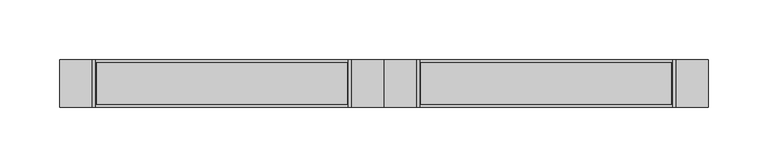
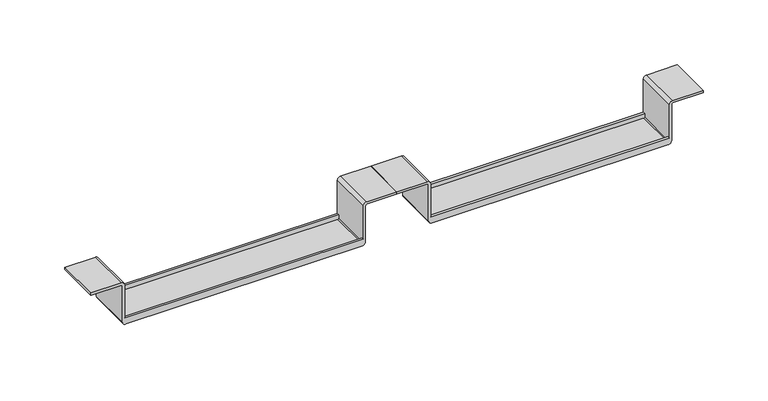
"""IFC4 building model written with IfcOpenShell, lengths in millimetres: proxy geometry, Cable_Tray_Support_SV_Basorsupport : Basorsupport SV 400."""

import ifcopenshell
import ifcopenshell.guid

model = None  # the IFC model being written
_history = None  # IfcOwnerHistory: only IFC2X3 demands one
_inside = {}  # id of a spatial element -> (the spatial element, [elements in it])
_under = {}  # id of a project, library or spatial element -> (it, [spatial elements below it])
_declared = {}  # id of a project -> (the project, [libraries it declares])
_typed = {}  # id of a type object -> (the type object, [elements of that type])
_made_of = {}  # id of a material, layer set ... -> (it, [elements and type objects made of it])


def new_model(schema):
    """Start an empty IFC model of exactly this schema.

    Asked for "IFC4X3", IfcOpenShell would pick the latest addendum, in which some entities
    have other attributes; the version numbers below select the first issue.
    IFC2X3 requires an IfcOwnerHistory on every rooted entity: one is made here for all.
    """
    global model, _history
    if schema == "IFC4X3":
        model = ifcopenshell.file(schema_version=(4, 3, 0, 0))
    else:
        model = ifcopenshell.file(schema=schema)
    _inside.clear()
    _under.clear()
    _declared.clear()
    _typed.clear()
    _made_of.clear()
    _history = None
    if model.schema == "IFC2X3":
        org = make("IfcOrganization", Name="unknown")
        user = make(
            "IfcPersonAndOrganization",
            ThePerson=make("IfcPerson", FamilyName="unknown"),
            TheOrganization=org,
        )
        app = make(
            "IfcApplication",
            ApplicationDeveloper=org,
            Version="unknown",
            ApplicationFullName="unknown",
            ApplicationIdentifier="unknown",
        )
        _history = make(
            "IfcOwnerHistory",
            OwningUser=user,
            OwningApplication=app,
            ChangeAction="ADDED",
            CreationDate=0,
        )
    return model


def make(cls, **values):
    """One entity of the class cls with the attributes given. An attribute that is None is left unset."""
    return model.create_entity(
        cls, **{name: value for name, value in values.items() if value is not None}
    )


def rooted(cls, **values):
    """An entity with a GlobalId (a new one), such as an element, a storey or a relation."""
    return make(cls, GlobalId=ifcopenshell.guid.new(), OwnerHistory=_history, **values)


def si_unit(unit_type, name, prefix=None):
    """IfcSIUnit, for example si_unit("LENGTHUNIT", "METRE", prefix="MILLI")."""
    return make("IfcSIUnit", UnitType=unit_type, Prefix=prefix, Name=name)


def assignment(units):
    """IfcUnitAssignment: the units of a project."""
    return None if units is None else make("IfcUnitAssignment", Units=units)


def point(xyz):
    """IfcCartesianPoint."""
    return None if xyz is None else make("IfcCartesianPoint", Coordinates=xyz)


def direction(xyz):
    """IfcDirection."""
    return None if xyz is None else make("IfcDirection", DirectionRatios=xyz)


def frame(location, z_axis=None, x_axis=None):
    """IfcAxis2Placement3D, a coordinate frame: its origin and axes. An axis left out is left unset."""
    return make(
        "IfcAxis2Placement3D",
        Location=point(location),
        Axis=direction(z_axis),
        RefDirection=direction(x_axis),
    )


def origin():
    """The frame at (0, 0, 0) with its axes left unset."""
    return frame((0.0, 0.0, 0.0))


def place(relative_to, where):
    """IfcLocalPlacement: puts the frame where relative to a parent placement (None: the world)."""
    return make(
        "IfcLocalPlacement", PlacementRelTo=relative_to, RelativePlacement=where
    )


def context(
    kind, dimensions, precision=None, world=None, true_north=None, identifier=None
):
    """IfcGeometricRepresentationContext, for example the 3D "Model" context."""
    return make(
        "IfcGeometricRepresentationContext",
        ContextIdentifier=identifier,
        ContextType=kind,
        CoordinateSpaceDimension=dimensions,
        Precision=precision,
        WorldCoordinateSystem=world,
        TrueNorth=true_north,
    )


def project(units=None, contexts=None):
    """IfcProject with its units and contexts."""
    return rooted(
        "IfcProject",
        Name="project",
        RepresentationContexts=contexts,
        UnitsInContext=assignment(units),
    )


def spatial(cls, under=None, at=None, **own):
    """A site, building, storey or space (cls), placed at a placement, below another one or the project."""
    s = rooted(cls, ObjectPlacement=at, **own)
    if under is not None:
        _under.setdefault(under.id(), (under, []))[1].append(s)
    return s


def polyline(points):
    """IfcPolyline through the points."""
    return make("IfcPolyline", Points=[point(p) for p in points])


def circle_curve(where, radius):
    """IfcCircle in the frame where."""
    return make("IfcCircle", Position=where, Radius=radius)


def shape(context_of_items, identifier, shape_type, items):
    """IfcShapeRepresentation: the items that make up one representation, for example the "Body"."""
    return make(
        "IfcShapeRepresentation",
        ContextOfItems=context_of_items,
        RepresentationIdentifier=identifier,
        RepresentationType=shape_type,
        Items=items,
    )


def source(mapping_origin, context_of_items, identifier, shape_type, items):
    """IfcRepresentationMap: a shape defined once, which mapped items show again and again."""
    return make(
        "IfcRepresentationMap",
        MappingOrigin=mapping_origin,
        MappedRepresentation=shape(context_of_items, identifier, shape_type, items),
    )


def transform(
    local_origin,
    x_axis=None,
    y_axis=None,
    z_axis=None,
    scale=None,
    scale2=None,
    scale3=None,
    uniform=True,
):
    """IfcCartesianTransformationOperator3D, or its non-uniform kind. x_axis, y_axis, z_axis: its Axis1, 2, 3."""
    if uniform:
        return make(
            "IfcCartesianTransformationOperator3D",
            Axis1=direction(x_axis),
            Axis2=direction(y_axis),
            LocalOrigin=point(local_origin),
            Scale=scale,
            Axis3=direction(z_axis),
        )
    return make(
        "IfcCartesianTransformationOperator3DnonUniform",
        Axis1=direction(x_axis),
        Axis2=direction(y_axis),
        LocalOrigin=point(local_origin),
        Scale=scale,
        Axis3=direction(z_axis),
        Scale2=scale2,
        Scale3=scale3,
    )


def mapped(mapping_source, mapping_target):
    """IfcMappedItem: shows the shape of a source again, moved by a transform."""
    return make(
        "IfcMappedItem", MappingSource=mapping_source, MappingTarget=mapping_target
    )


def made_of(thing, what):
    """Note that an element or type object is made of a material, layer set ...; save() writes the relation."""
    if what is not None:
        _made_of.setdefault(what.id(), (what, []))[1].append(thing)
    return thing


def element(
    cls,
    number,
    at=None,
    inside=None,
    cuts=None,
    type_object=None,
    material=None,
    context=None,
    identifier="Body",
    shape_type=None,
    held_by="IfcProductDefinitionShape",
    body=None,
    shapes=None,
    **own,
):
    """One element of the class cls, such as IfcWall. Its Tag is "e" and its number.

    at: its placement. inside: the storey or other place that contains it. cuts: it is an
    opening in that element (IfcRelVoidsElement). A single representation is given by context,
    identifier, shape_type and body (its items); several are given by shapes. held_by: the class
    of the entity that holds the representations. save() writes the other relations.
    """
    e = rooted(cls, Tag="e%d" % number, ObjectPlacement=at, **own)
    if body is not None:
        shapes = [shape(context, identifier, shape_type, body)]
    if shapes is not None:
        e.Representation = make(held_by, Representations=shapes)
    if inside is not None:
        _inside.setdefault(inside.id(), (inside, []))[1].append(e)
    if cuts is not None:
        rooted(
            "IfcRelVoidsElement", RelatingBuildingElement=cuts, RelatedOpeningElement=e
        )
    if type_object is not None:
        _typed.setdefault(type_object.id(), (type_object, []))[1].append(e)
    return made_of(e, material)


def aggregate(whole, parts):
    """IfcRelAggregates: a whole, such as a stair, and the parts it consists of."""
    return rooted("IfcRelAggregates", RelatingObject=whole, RelatedObjects=parts)


def save(model, path):
    """Write the relations noted so far, then the file.

    IfcRelAggregates (storeys below a building ...), IfcRelContainedInSpatialStructure (elements
    in a storey), IfcRelDefinesByType, IfcRelAssociatesMaterial and IfcRelDeclares: one each for
    every whole, place, type object, material and project.
    """
    for whole, parts in _under.values():
        aggregate(whole, parts)
    for where, things in _inside.values():
        rooted(
            "IfcRelContainedInSpatialStructure",
            RelatedElements=things,
            RelatingStructure=where,
        )
    for kind, things in _typed.values():
        rooted("IfcRelDefinesByType", RelatedObjects=things, RelatingType=kind)
    for what, things in _made_of.values():
        rooted("IfcRelAssociatesMaterial", RelatedObjects=things, RelatingMaterial=what)
    for by, libraries in _declared.values():
        rooted("IfcRelDeclares", RelatingContext=by, RelatedDefinitions=libraries)
    model.write(path)


def plane_surface(at):
    """IfcPlane: the flat surface through the origin of the frame at, square to its z axis."""
    return make("IfcPlane", Position=at)


def cylinder_surface(at, radius):
    """IfcCylindricalSurface: all points at the distance radius from the z axis of the frame at."""
    return make("IfcCylindricalSurface", Position=at, Radius=radius)


def revolved_surface(curve, axis_point, axis_direction):
    """IfcSurfaceOfRevolution: the curve turned about the line through axis_point along axis_direction."""
    return make(
        "IfcSurfaceOfRevolution",
        SweptCurve=make("IfcArbitraryOpenProfileDef", ProfileType="CURVE", Curve=curve),
        AxisPosition=make("IfcAxis1Placement", Location=point(axis_point), Axis=direction(axis_direction)),
    )


def advanced_brep(points, edges, surfaces, faces):
    """IfcAdvancedBrep: a solid bounded by faces that lie on surfaces and meet in shared edges.

    An edge is (start, end): straight between two places in points (the first is 0);
    or (start, end, curve); or (start, end, curve, False) where it runs against its curve.
    A face is (place in surfaces, loops), or (place, loops, False) where it looks against
    its surface's normal. A loop lists edges by number (the first is 1), with a minus sign
    where the edge is run from its end to its start. The first loop is the outer one.
    """
    corners = [point(p) for p in points]
    vertices = [make("IfcVertexPoint", VertexGeometry=c) for c in corners]
    made = []
    for start, end, *more in edges:
        made.append(
            make(
                "IfcEdgeCurve",
                EdgeStart=vertices[start],
                EdgeEnd=vertices[end],
                EdgeGeometry=more[0] if more else make("IfcPolyline", Points=[corners[start], corners[end]]),
                SameSense=more[1] if len(more) > 1 else True,
            )
        )
    hull = []
    for where, loops, *sense in faces:
        bounds = []
        for j, loop in enumerate(loops):
            ring = [make("IfcOrientedEdge", EdgeElement=made[abs(k) - 1], Orientation=k > 0) for k in loop]
            bounds.append(
                make(
                    "IfcFaceOuterBound" if j == 0 else "IfcFaceBound",
                    Bound=make("IfcEdgeLoop", EdgeList=ring),
                    Orientation=True,
                )
            )
        hull.append(make("IfcAdvancedFace", Bounds=bounds, FaceSurface=surfaces[where], SameSense=sense[0] if sense else True))
    return make("IfcAdvancedBrep", Outer=make("IfcClosedShell", CfsFaces=hull))


def generic_models_95577306(model_context):
    return source(origin(), model_context, "Body", "AdvancedBrep", [
        advanced_brep(
        [(242.0, -18.0, 6.0), (30.0, -18.0, 6.0), (30.0, -20.0, 6.0), (242.0, -20.0, 6.0), (242.0, 20.0, 6.0), (30.0, 20.0, 6.0), (30.0, 18.0, 6.0), (242.0, 18.0, 6.0), (242.0, -18.0, 3.0), (241.0, -18.0, 2.0), (31.0, -18.0, 2.0), (30.0, -18.0, 3.0), (30.0, -20.0, 37.0), (27.0, -20.0, 40.0), (0.0, -20.0, 40.0), (0.0, -20.0, 38.0), (27.0, -20.0, 38.0), (28.0, -20.0, 37.0), (28.0, -20.0, 3.0), (28.0327955, -20.0, 2.5576232), (31.0, -20.0, 0.0), (241.0, -20.0, 0.0), (244.0, -20.0, 3.0), (244.0, -20.0, 37.0), (245.0, -20.0, 38.0), (272.0, -20.0, 38.0), (272.0, -20.0, 40.0), (245.0, -20.0, 40.0), (242.0, -20.0, 37.0), (242.0, 20.0, 37.0), (245.0, 20.0, 40.0), (272.0, 20.0, 40.0), (272.0, 20.0, 38.0), (245.0, 20.0, 38.0), (244.0, 20.0, 37.0), (244.0, 20.0, 3.0), (241.0, 20.0, 0.0), (31.0, 20.0, 0.0), (28.0327955, 20.0, 2.5576232), (28.0, 20.0, 3.0), (28.0, 20.0, 37.0), (27.0, 20.0, 38.0), (0.0, 20.0, 38.0), (0.0, 20.0, 40.0), (27.0, 20.0, 40.0), (30.0, 20.0, 37.0), (30.0, 18.0, 3.0), (31.0, 18.0, 2.0), (241.0, 18.0, 2.0), (242.0, 18.0, 3.0)],
        [
            (0, 1),
            (1, 2),
            (2, 3),
            (3, 0),
            (4, 5),
            (5, 6),
            (6, 7),
            (7, 4),
            (0, 8),
            (8, 9, circle_curve(frame((241.0, -18.0, 3.0), z_axis=(0.0, 1.0, 0.0), x_axis=(1.0, 0.0, 0.0)), 1.0)),
            (9, 10),
            (10, 11, circle_curve(frame((31.0, -18.0, 3.0), z_axis=(0.0, 1.0, 0.0), x_axis=(1.0, 0.0, 0.0)), 1.0)),
            (11, 1),
            (2, 12),
            (12, 13, circle_curve(frame((27.0, -20.0, 37.0), z_axis=(0.0, -1.0, 0.0), x_axis=(1.0, 0.0, 0.0)), 3.0)),
            (13, 14),
            (14, 15),
            (15, 16),
            (16, 17, circle_curve(frame((27.0, -20.0, 37.0), z_axis=(0.0, 1.0, 0.0), x_axis=(1.0, 0.0, 0.0)), 1.0)),
            (17, 18),
            (18, 19, circle_curve(frame((31.0, -20.0, 3.0), z_axis=(0.0, -1.0, 0.0), x_axis=(1.0, 0.0, 0.0)), 3.0)),
            (19, 20, circle_curve(frame((31.0, -20.0, 3.0), z_axis=(0.0, -1.0, 0.0), x_axis=(1.0, 0.0, 0.0)), 3.0)),
            (20, 21),
            (21, 22, circle_curve(frame((241.0, -20.0, 3.0), z_axis=(0.0, -1.0, 0.0), x_axis=(1.0, 0.0, 0.0)), 3.0)),
            (22, 23),
            (23, 24, circle_curve(frame((245.0, -20.0, 37.0), z_axis=(0.0, 1.0, 0.0), x_axis=(1.0, 0.0, 0.0)), 1.0)),
            (24, 25),
            (25, 26),
            (26, 27),
            (27, 28, circle_curve(frame((245.0, -20.0, 37.0), z_axis=(0.0, -1.0, 0.0), x_axis=(1.0, 0.0, 0.0)), 3.0)),
            (28, 3),
            (4, 29),
            (29, 30, circle_curve(frame((245.0, 20.0, 37.0), z_axis=(0.0, 1.0, 0.0), x_axis=(1.0, 0.0, 0.0)), 3.0)),
            (30, 31),
            (31, 32),
            (32, 33),
            (33, 34, circle_curve(frame((245.0, 20.0, 37.0), z_axis=(0.0, -1.0, 0.0), x_axis=(1.0, 0.0, 0.0)), 1.0)),
            (34, 35),
            (35, 36, circle_curve(frame((241.0, 20.0, 3.0), z_axis=(0.0, 1.0, 0.0), x_axis=(1.0, 0.0, 0.0)), 3.0)),
            (36, 37),
            (37, 38, circle_curve(frame((31.0, 20.0, 3.0), z_axis=(0.0, 1.0, 0.0), x_axis=(1.0, 0.0, 0.0)), 3.0)),
            (38, 39, circle_curve(frame((31.0, 20.0, 3.0), z_axis=(0.0, 1.0, 0.0), x_axis=(1.0, 0.0, 0.0)), 3.0)),
            (39, 40),
            (40, 41, circle_curve(frame((27.0, 20.0, 37.0), z_axis=(0.0, -1.0, 0.0), x_axis=(1.0, 0.0, 0.0)), 1.0)),
            (41, 42),
            (42, 43),
            (43, 44),
            (44, 45, circle_curve(frame((27.0, 20.0, 37.0), z_axis=(0.0, 1.0, 0.0), x_axis=(1.0, 0.0, 0.0)), 3.0)),
            (45, 5),
            (6, 46),
            (46, 47, circle_curve(frame((31.0, 18.0, 3.0), z_axis=(0.0, -1.0, 0.0), x_axis=(1.0, 0.0, 0.0)), 1.0)),
            (47, 48),
            (48, 49, circle_curve(frame((241.0, 18.0, 3.0), z_axis=(0.0, -1.0, 0.0), x_axis=(1.0, 0.0, 0.0)), 1.0)),
            (49, 7),
            (9, 48),
            (47, 10),
            (28, 29),
            (49, 8),
            (26, 31),
            (30, 27),
            (25, 32),
            (24, 33),
            (22, 35),
            (34, 23),
            (20, 37),
            (36, 21),
            (17, 40),
            (39, 18),
            (15, 42),
            (41, 16),
            (14, 43),
            (13, 44),
            (45, 12),
            (11, 46),
        ],
        [
            plane_surface(frame((242.0, -20.0, 6.0), z_axis=(0.0, 0.0, 1.0), x_axis=(0.0, 1.0, 0.0))),
            plane_surface(frame((242.0, -18.0, 6.0), z_axis=(0.0, 1.0, 0.0), x_axis=(0.0, 0.0, -1.0))),
            plane_surface(frame((30.0, -20.0, 6.0), z_axis=(0.0, -1.0, 0.0), x_axis=(0.0, 0.0, -1.0))),
            plane_surface(frame((242.0, 20.0, 6.0), z_axis=(0.0, 1.0, 0.0), x_axis=(0.0, 0.0, -1.0))),
            plane_surface(frame((30.0, 18.0, 6.0), z_axis=(0.0, -1.0, 0.0), x_axis=(0.0, 0.0, -1.0))),
            plane_surface(frame((241.0, -20.0, 2.0), z_axis=(0.0, 0.0, 1.0), x_axis=(0.0, 1.0, 0.0))),
            plane_surface(frame((242.0, -20.0, 37.0), z_axis=(-1.0, 0.0, -1.8865575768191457e-12), x_axis=(0.0, 1.0, 0.0))),
            plane_surface(frame((272.0, -20.0, 40.0), z_axis=(0.0, 0.0, 1.0), x_axis=(0.0, 1.0, 0.0))),
            plane_surface(frame((272.0, -20.0, 38.0), z_axis=(1.0, 0.0, 0.0), x_axis=(0.0, 1.0, 0.0))),
            plane_surface(frame((245.0, -20.0, 38.0), z_axis=(0.0, 0.0, -1.0), x_axis=(0.0, 1.0, 0.0))),
            plane_surface(frame((244.0, -20.0, 3.0), z_axis=(1.0, 0.0, 0.0), x_axis=(0.0, 1.0, 0.0))),
            plane_surface(frame((31.0, -20.0, 0.0), z_axis=(0.0, 0.0, -1.0), x_axis=(0.0, 1.0, 0.0))),
            plane_surface(frame((28.0, -20.0, 37.0), z_axis=(-1.0, 0.0, 0.0), x_axis=(0.0, 1.0, 0.0))),
            plane_surface(frame((0.0, -20.0, 38.0), z_axis=(0.0, 0.0, -1.0), x_axis=(0.0, 1.0, 0.0))),
            plane_surface(frame((0.0, -20.0, 40.0), z_axis=(-1.0, 0.0, 0.0), x_axis=(0.0, 1.0, 0.0))),
            plane_surface(frame((27.0, -20.0, 40.0), z_axis=(0.0, 0.0, 1.0), x_axis=(0.0, 1.0, 0.0))),
            plane_surface(frame((30.0, -20.0, 3.0), z_axis=(1.0, 0.0, 0.0), x_axis=(0.0, 1.0, 0.0))),
            cylinder_surface(frame((27.0, 20.0, 37.0), z_axis=(0.0, -1.0, 0.0), x_axis=(1.0, 0.0, 0.0)), 3.0),
            revolved_surface(polyline([(28.0, 20.0, 37.0), (28.0, -20.0, 37.0)]), (27.0, 20.0, 37.0), (0.0, 1.0, 0.0)),
            cylinder_surface(frame((31.0, 20.0, 3.0), z_axis=(0.0, -1.0, 0.0), x_axis=(1.0, 0.0, 0.0)), 3.0),
            cylinder_surface(frame((241.0, 20.0, 3.0), z_axis=(0.0, -1.0, 0.0), x_axis=(1.0, 0.0, 0.0)), 3.0),
            revolved_surface(polyline([(246.0, 20.0, 37.0), (246.0, -20.0, 37.0)]), (245.0, 20.0, 37.0), (0.0, 1.0, 0.0)),
            cylinder_surface(frame((245.0, 20.0, 37.0), z_axis=(0.0, -1.0, 0.0), x_axis=(1.0, 0.0, 0.0)), 3.0),
            revolved_surface(polyline([(242.0, 18.0, 3.0), (242.0, -18.0, 3.0)]), (241.0, 20.0, 3.0), (0.0, 1.0, 0.0)),
            revolved_surface(polyline([(32.0, 18.0, 3.0), (32.0, -18.0, 3.0)]), (31.0, 20.0, 3.0), (0.0, 1.0, 0.0)),
        ],
        [
            (0, [[1, 2, 3, 4]]),
            (0, [[5, 6, 7, 8]]),
            (1, [[-1, 9, 10, 11, 12, 13]]),
            (2, [[-3, 14, 15, 16, 17, 18, 19, 20, 21, 22, 23, 24, 25, 26, 27, 28, 29, 30, 31]]),
            (3, [[-5, 32, 33, 34, 35, 36, 37, 38, 39, 40, 41, 42, 43, 44, 45, 46, 47, 48, 49]]),
            (4, [[-7, 50, 51, 52, 53, 54]]),
            (5, [[55, -52, 56, -11]]),
            (6, [[57, -32, -8, -54, 58, -9, -4, -31]]),
            (7, [[-29, 59, -34, 60]]),
            (8, [[-28, 61, -35, -59]]),
            (9, [[-27, 62, -36, -61]]),
            (10, [[-25, 63, -38, 64]]),
            (11, [[-23, 65, -40, 66]]),
            (12, [[-20, 67, -43, 68]]),
            (13, [[-18, 69, -45, 70]]),
            (14, [[-17, 71, -46, -69]]),
            (15, [[-16, 72, -47, -71]]),
            (16, [[73, -14, -2, -13, 74, -50, -6, -49]]),
            (17, [[-15, -73, -48, -72]]),
            (18, [[-19, -70, -44, -67]]),
            (19, [[-22, -21, -68, -42, -41, -65]]),
            (20, [[-24, -66, -39, -63]]),
            (21, [[-26, -64, -37, -62]]),
            (22, [[-30, -60, -33, -57]]),
            (23, [[-55, -10, -58, -53]]),
            (24, [[-56, -51, -74, -12]]),
        ],
    ),
        advanced_brep(
        [(-30.0, -18.0, 6.0), (-242.0, -18.0, 6.0), (-242.0, -20.0, 6.0), (-30.0, -20.0, 6.0), (-30.0, 20.0, 6.0), (-242.0, 20.0, 6.0), (-242.0, 18.0, 6.0), (-30.0, 18.0, 6.0), (-30.0, -18.0, 3.0), (-31.0, -18.0, 2.0), (-241.0, -18.0, 2.0), (-242.0, -18.0, 3.0), (-242.0, -20.0, 37.0), (-245.0, -20.0, 40.0), (-272.0, -20.0, 40.0), (-272.0, -20.0, 38.0), (-245.0, -20.0, 38.0), (-244.0, -20.0, 37.0), (-244.0, -20.0, 3.0), (-243.9672045, -20.0, 2.5576232), (-241.0, -20.0, 0.0), (-31.0, -20.0, 0.0), (-28.0, -20.0, 3.0), (-28.0, -20.0, 37.0), (-27.0, -20.0, 38.0), (0.0, -20.0, 38.0), (0.0, -20.0, 40.0), (-27.0, -20.0, 40.0), (-30.0, -20.0, 37.0), (-30.0, 20.0, 37.0), (-27.0, 20.0, 40.0), (0.0, 20.0, 40.0), (0.0, 20.0, 38.0), (-27.0, 20.0, 38.0), (-28.0, 20.0, 37.0), (-28.0, 20.0, 3.0), (-31.0, 20.0, 0.0), (-241.0, 20.0, 0.0), (-243.9672045, 20.0, 2.5576232), (-244.0, 20.0, 3.0), (-244.0, 20.0, 37.0), (-245.0, 20.0, 38.0), (-272.0, 20.0, 38.0), (-272.0, 20.0, 40.0), (-245.0, 20.0, 40.0), (-242.0, 20.0, 37.0), (-242.0, 18.0, 3.0), (-241.0, 18.0, 2.0), (-31.0, 18.0, 2.0), (-30.0, 18.0, 3.0)],
        [
            (0, 1),
            (1, 2),
            (2, 3),
            (3, 0),
            (4, 5),
            (5, 6),
            (6, 7),
            (7, 4),
            (0, 8),
            (8, 9, circle_curve(frame((-31.0, -18.0, 3.0), z_axis=(0.0, 1.0, 0.0), x_axis=(1.0, 0.0, 0.0)), 1.0)),
            (9, 10),
            (10, 11, circle_curve(frame((-241.0, -18.0, 3.0), z_axis=(0.0, 1.0, 0.0), x_axis=(1.0, 0.0, 0.0)), 1.0)),
            (11, 1),
            (2, 12),
            (12, 13, circle_curve(frame((-245.0, -20.0, 37.0), z_axis=(0.0, -1.0, 0.0), x_axis=(1.0, 0.0, 0.0)), 3.0)),
            (13, 14),
            (14, 15),
            (15, 16),
            (16, 17, circle_curve(frame((-245.0, -20.0, 37.0), z_axis=(0.0, 1.0, 0.0), x_axis=(1.0, 0.0, 0.0)), 1.0)),
            (17, 18),
            (18, 19, circle_curve(frame((-241.0, -20.0, 3.0), z_axis=(0.0, -1.0, 0.0), x_axis=(1.0, 0.0, 0.0)), 3.0)),
            (19, 20, circle_curve(frame((-241.0, -20.0, 3.0), z_axis=(0.0, -1.0, 0.0), x_axis=(1.0, 0.0, 0.0)), 3.0)),
            (20, 21),
            (21, 22, circle_curve(frame((-31.0, -20.0, 3.0), z_axis=(0.0, -1.0, 0.0), x_axis=(1.0, 0.0, 0.0)), 3.0)),
            (22, 23),
            (23, 24, circle_curve(frame((-27.0, -20.0, 37.0), z_axis=(0.0, 1.0, 0.0), x_axis=(1.0, 0.0, 0.0)), 1.0)),
            (24, 25),
            (25, 26),
            (26, 27),
            (27, 28, circle_curve(frame((-27.0, -20.0, 37.0), z_axis=(0.0, -1.0, 0.0), x_axis=(1.0, 0.0, 0.0)), 3.0)),
            (28, 3),
            (4, 29),
            (29, 30, circle_curve(frame((-27.0, 20.0, 37.0), z_axis=(0.0, 1.0, 0.0), x_axis=(1.0, 0.0, 0.0)), 3.0)),
            (30, 31),
            (31, 32),
            (32, 33),
            (33, 34, circle_curve(frame((-27.0, 20.0, 37.0), z_axis=(0.0, -1.0, 0.0), x_axis=(1.0, 0.0, 0.0)), 1.0)),
            (34, 35),
            (35, 36, circle_curve(frame((-31.0, 20.0, 3.0), z_axis=(0.0, 1.0, 0.0), x_axis=(1.0, 0.0, 0.0)), 3.0)),
            (36, 37),
            (37, 38, circle_curve(frame((-241.0, 20.0, 3.0), z_axis=(0.0, 1.0, 0.0), x_axis=(1.0, 0.0, 0.0)), 3.0)),
            (38, 39, circle_curve(frame((-241.0, 20.0, 3.0), z_axis=(0.0, 1.0, 0.0), x_axis=(1.0, 0.0, 0.0)), 3.0)),
            (39, 40),
            (40, 41, circle_curve(frame((-245.0, 20.0, 37.0), z_axis=(0.0, -1.0, 0.0), x_axis=(1.0, 0.0, 0.0)), 1.0)),
            (41, 42),
            (42, 43),
            (43, 44),
            (44, 45, circle_curve(frame((-245.0, 20.0, 37.0), z_axis=(0.0, 1.0, 0.0), x_axis=(1.0, 0.0, 0.0)), 3.0)),
            (45, 5),
            (6, 46),
            (46, 47, circle_curve(frame((-241.0, 18.0, 3.0), z_axis=(0.0, -1.0, 0.0), x_axis=(1.0, 0.0, 0.0)), 1.0)),
            (47, 48),
            (48, 49, circle_curve(frame((-31.0, 18.0, 3.0), z_axis=(0.0, -1.0, 0.0), x_axis=(1.0, 0.0, 0.0)), 1.0)),
            (49, 7),
            (9, 48),
            (47, 10),
            (28, 29),
            (49, 8),
            (26, 31),
            (30, 27),
            (25, 32),
            (24, 33),
            (22, 35),
            (34, 23),
            (20, 37),
            (36, 21),
            (17, 40),
            (39, 18),
            (15, 42),
            (41, 16),
            (14, 43),
            (13, 44),
            (45, 12),
            (11, 46),
        ],
        [
            plane_surface(frame((-30.0, -20.0, 6.0), z_axis=(0.0, 0.0, 1.0), x_axis=(0.0, 1.0, 0.0))),
            plane_surface(frame((-30.0, -18.0, 6.0), z_axis=(0.0, 1.0, 0.0), x_axis=(0.0, 0.0, -1.0))),
            plane_surface(frame((-242.0, -20.0, 6.0), z_axis=(0.0, -1.0, 0.0), x_axis=(0.0, 0.0, -1.0))),
            plane_surface(frame((-30.0, 20.0, 6.0), z_axis=(0.0, 1.0, 0.0), x_axis=(0.0, 0.0, -1.0))),
            plane_surface(frame((-242.0, 18.0, 6.0), z_axis=(0.0, -1.0, 0.0), x_axis=(0.0, 0.0, -1.0))),
            plane_surface(frame((-31.0, -20.0, 2.0), z_axis=(0.0, 0.0, 1.0), x_axis=(0.0, 1.0, 0.0))),
            plane_surface(frame((-30.0, -20.0, 37.0), z_axis=(-1.0, 0.0, -1.8865575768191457e-12), x_axis=(0.0, 1.0, 0.0))),
            plane_surface(frame((0.0, -20.0, 40.0), z_axis=(0.0, 0.0, 1.0), x_axis=(0.0, 1.0, 0.0))),
            plane_surface(frame((0.0, -20.0, 38.0), z_axis=(1.0, 0.0, 0.0), x_axis=(0.0, 1.0, 0.0))),
            plane_surface(frame((-27.0, -20.0, 38.0), z_axis=(0.0, 0.0, -1.0), x_axis=(0.0, 1.0, 0.0))),
            plane_surface(frame((-28.0, -20.0, 3.0), z_axis=(1.0, 0.0, 0.0), x_axis=(0.0, 1.0, 0.0))),
            plane_surface(frame((-241.0, -20.0, 0.0), z_axis=(0.0, 0.0, -1.0), x_axis=(0.0, 1.0, 0.0))),
            plane_surface(frame((-244.0, -20.0, 37.0), z_axis=(-1.0, 0.0, 0.0), x_axis=(0.0, 1.0, 0.0))),
            plane_surface(frame((-272.0, -20.0, 38.0), z_axis=(0.0, 0.0, -1.0), x_axis=(0.0, 1.0, 0.0))),
            plane_surface(frame((-272.0, -20.0, 40.0), z_axis=(-1.0, 0.0, 0.0), x_axis=(0.0, 1.0, 0.0))),
            plane_surface(frame((-245.0, -20.0, 40.0), z_axis=(0.0, 0.0, 1.0), x_axis=(0.0, 1.0, 0.0))),
            plane_surface(frame((-242.0, -20.0, 3.0), z_axis=(1.0, 0.0, 0.0), x_axis=(0.0, 1.0, 0.0))),
            cylinder_surface(frame((-245.0, 20.0, 37.0), z_axis=(0.0, -1.0, 0.0), x_axis=(1.0, 0.0, 0.0)), 3.0),
            revolved_surface(polyline([(-244.0, 20.0, 37.0), (-244.0, -20.0, 37.0)]), (-245.0, 20.0, 37.0), (0.0, 1.0, 0.0)),
            cylinder_surface(frame((-241.0, 20.0, 3.0), z_axis=(0.0, -1.0, 0.0), x_axis=(1.0, 0.0, 0.0)), 3.0),
            cylinder_surface(frame((-31.0, 20.0, 3.0), z_axis=(0.0, -1.0, 0.0), x_axis=(1.0, 0.0, 0.0)), 3.0),
            revolved_surface(polyline([(-26.0, 20.0, 37.0), (-26.0, -20.0, 37.0)]), (-27.0, 20.0, 37.0), (0.0, 1.0, 0.0)),
            cylinder_surface(frame((-27.0, 20.0, 37.0), z_axis=(0.0, -1.0, 0.0), x_axis=(1.0, 0.0, 0.0)), 3.0),
            revolved_surface(polyline([(-30.0, 18.0, 3.0), (-30.0, -18.0, 3.0)]), (-31.0, 20.0, 3.0), (0.0, 1.0, 0.0)),
            revolved_surface(polyline([(-240.0, 18.0, 3.0), (-240.0, -18.0, 3.0)]), (-241.0, 20.0, 3.0), (0.0, 1.0, 0.0)),
        ],
        [
            (0, [[1, 2, 3, 4]]),
            (0, [[5, 6, 7, 8]]),
            (1, [[-1, 9, 10, 11, 12, 13]]),
            (2, [[-3, 14, 15, 16, 17, 18, 19, 20, 21, 22, 23, 24, 25, 26, 27, 28, 29, 30, 31]]),
            (3, [[-5, 32, 33, 34, 35, 36, 37, 38, 39, 40, 41, 42, 43, 44, 45, 46, 47, 48, 49]]),
            (4, [[-7, 50, 51, 52, 53, 54]]),
            (5, [[55, -52, 56, -11]]),
            (6, [[57, -32, -8, -54, 58, -9, -4, -31]]),
            (7, [[-29, 59, -34, 60]]),
            (8, [[-28, 61, -35, -59]]),
            (9, [[-27, 62, -36, -61]]),
            (10, [[-25, 63, -38, 64]]),
            (11, [[-23, 65, -40, 66]]),
            (12, [[-20, 67, -43, 68]]),
            (13, [[-18, 69, -45, 70]]),
            (14, [[-17, 71, -46, -69]]),
            (15, [[-16, 72, -47, -71]]),
            (16, [[73, -14, -2, -13, 74, -50, -6, -49]]),
            (17, [[-15, -73, -48, -72]]),
            (18, [[-19, -70, -44, -67]]),
            (19, [[-22, -21, -68, -42, -41, -65]]),
            (20, [[-24, -66, -39, -63]]),
            (21, [[-26, -64, -37, -62]]),
            (22, [[-30, -60, -33, -57]]),
            (23, [[-55, -10, -58, -53]]),
            (24, [[-56, -51, -74, -12]]),
        ],
    ),
    ])


if __name__ == "__main__":
    model = new_model("IFC4")
    model_context = context("Model", 3, world=origin())
    ifc_project = project(units=[si_unit("LENGTHUNIT", "METRE", prefix="MILLI")], contexts=[model_context])
    site = spatial("IfcSite", under=ifc_project)
    building = spatial("IfcBuilding", under=site)
    placement = place(None, origin())
    generic_models_shape = generic_models_95577306(model_context)
    element("IfcBuildingElementProxy", 1, Name="Cable_Tray_Support_SV_Basorsupport : Basorsupport SV 400", ObjectType="Cable_Tray_Support_SV_Basorsupport : Basorsupport SV 400", at=placement, inside=building, context=model_context, shape_type="MappedRepresentation", body=[
        mapped(generic_models_shape, transform((0.0, 0.0, 0.0), x_axis=(1.0, 0.0, 0.0), y_axis=(0.0, 1.0, 0.0), z_axis=(0.0, 0.0, 1.0))),
    ])
    save(model, "model.ifc")
